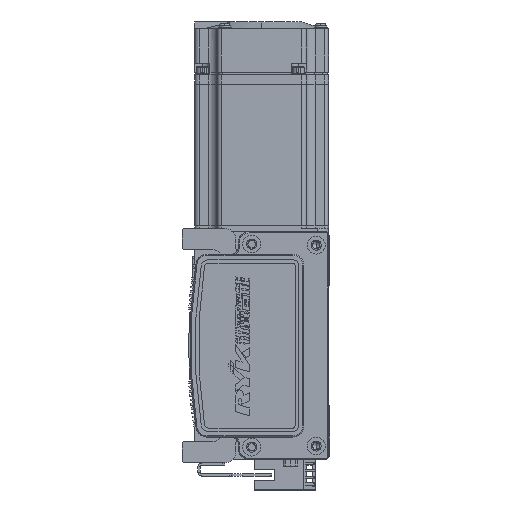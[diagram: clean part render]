
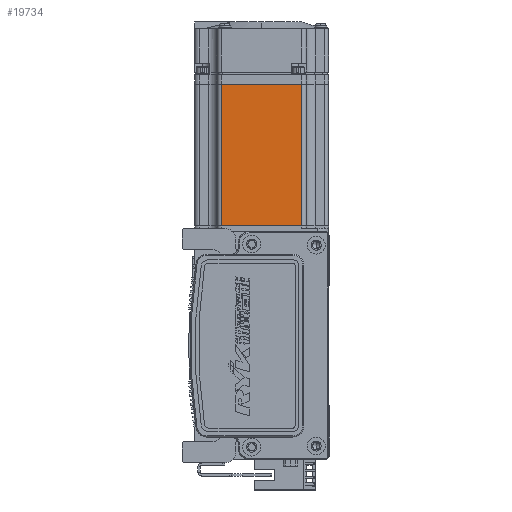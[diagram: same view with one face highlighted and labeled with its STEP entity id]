
A CAD part, left-side view. The second image highlights one B-rep face of the part: STEP entity #19734.
In plain terms, the highlighted planar face has unit normal (-1, 0, 0) as drawn and (0, 0, -1) by its records, which use the part's own axes.
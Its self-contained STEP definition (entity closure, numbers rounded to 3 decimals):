
#538 = ORIENTED_EDGE ( 'NONE', *, *, #3340, .T. ) ;
#1950 = VERTEX_POINT ( 'NONE', #63819 ) ;
#2580 = ORIENTED_EDGE ( 'NONE', *, *, #51854, .T. ) ;
#3081 = VERTEX_POINT ( 'NONE', #30673 ) ;
#3340 = EDGE_CURVE ( 'NONE', #3081, #43043, #29795, .T. ) ;
#8138 = LINE ( 'NONE', #52506, #60771 ) ;
#11099 = CARTESIAN_POINT ( 'NONE',  ( -70.95, -18., -30. ) ) ;
#12890 = EDGE_LOOP ( 'NONE', ( #46146, #538, #29945, #2580 ) ) ;
#13284 = DIRECTION ( 'NONE',  ( 0., 0., -1. ) ) ;
#15077 = EDGE_CURVE ( 'NONE', #43043, #26548, #63937, .T. ) ;
#19734 = ADVANCED_FACE ( 'NONE', ( #29265 ), #27973, .T. ) ;
#21151 = EDGE_CURVE ( 'NONE', #1950, #3081, #28314, .T. ) ;
#26548 = VERTEX_POINT ( 'NONE', #56324 ) ;
#27973 = PLANE ( 'NONE',  #63492 ) ;
#28314 = LINE ( 'NONE', #45064, #62039 ) ;
#29265 = FACE_OUTER_BOUND ( 'NONE', #12890, .T. ) ;
#29795 = LINE ( 'NONE', #43115, #45509 ) ;
#29891 = DIRECTION ( 'NONE',  ( 0., -1., 0. ) ) ;
#29945 = ORIENTED_EDGE ( 'NONE', *, *, #15077, .T. ) ;
#30673 = CARTESIAN_POINT ( 'NONE',  ( -7.75, -18., -30. ) ) ;
#43043 = VERTEX_POINT ( 'NONE', #11099 ) ;
#43115 = CARTESIAN_POINT ( 'NONE',  ( -6.5, -18., -30. ) ) ;
#45064 = CARTESIAN_POINT ( 'NONE',  ( -7.75, 25., -30. ) ) ;
#45509 = VECTOR ( 'NONE', #53466, 1000. ) ;
#46146 = ORIENTED_EDGE ( 'NONE', *, *, #21151, .T. ) ;
#47983 = CARTESIAN_POINT ( 'NONE',  ( -6.5, 25., -30. ) ) ;
#51854 = EDGE_CURVE ( 'NONE', #26548, #1950, #8138, .T. ) ;
#52506 = CARTESIAN_POINT ( 'NONE',  ( -6.5, 18., -30. ) ) ;
#52594 = CARTESIAN_POINT ( 'NONE',  ( -70.95, 25., -30. ) ) ;
#53009 = DIRECTION ( 'NONE',  ( -1., 0., 0. ) ) ;
#53466 = DIRECTION ( 'NONE',  ( -1., 0., 0. ) ) ;
#55368 = VECTOR ( 'NONE', #57604, 1000. ) ;
#56324 = CARTESIAN_POINT ( 'NONE',  ( -70.95, 18., -30. ) ) ;
#57604 = DIRECTION ( 'NONE',  ( 0., 1., 0. ) ) ;
#58146 = DIRECTION ( 'NONE',  ( 1., 0., 0. ) ) ;
#60771 = VECTOR ( 'NONE', #58146, 1000. ) ;
#62039 = VECTOR ( 'NONE', #29891, 1000. ) ;
#63492 = AXIS2_PLACEMENT_3D ( 'NONE', #47983, #13284, #53009 ) ;
#63819 = CARTESIAN_POINT ( 'NONE',  ( -7.75, 18., -30. ) ) ;
#63937 = LINE ( 'NONE', #52594, #55368 ) ;
